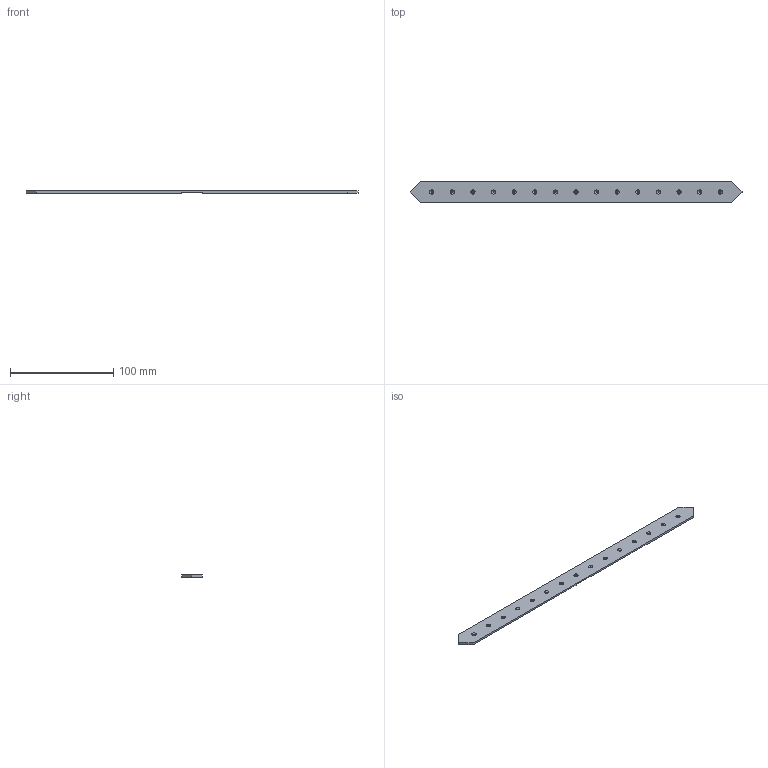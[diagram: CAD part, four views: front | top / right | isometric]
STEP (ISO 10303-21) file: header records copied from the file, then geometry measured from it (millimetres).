
FILE_DESCRIPTION (( 'STEP AP214' ), '1' );
FILE_NAME ('SC10_2.STEP', '2016-02-26T17:41:50', ( '' ), ( '' ), 'SwSTEP 2.0', 'SolidWorks 2012', '' );
FILE_SCHEMA (( 'AUTOMOTIVE_DESIGN' ));
Length unit declared in the file: millimetre
Products named in the file (1): SC10_2
Bounding box: 322.22 x 20 x 2 mm (x, y, z)
Volume: 11934.9 mm3; surface area: 13863.1 mm2
Topology: 1 solids, 1 shells, 70 faces, 176 edges, 108 vertices
Faces by surface type: cone 30, cylinder 28, plane 12
Entity records: 2198 total; most frequent: DIRECTION 406, CARTESIAN_POINT 355, ORIENTED_EDGE 352, EDGE_CURVE 176, AXIS2_PLACEMENT_3D 159, VERTEX_POINT 108, EDGE_LOOP 100, LINE 88
